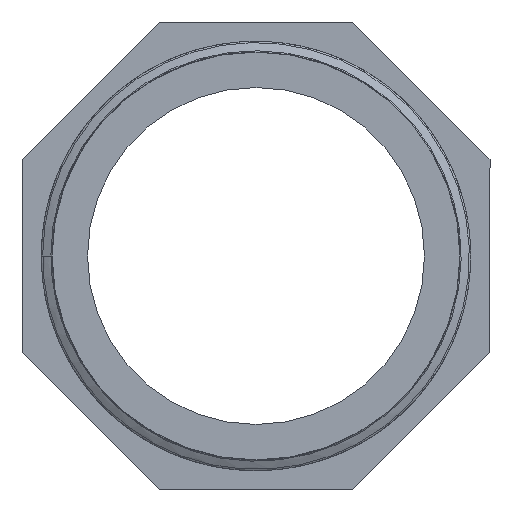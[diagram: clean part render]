
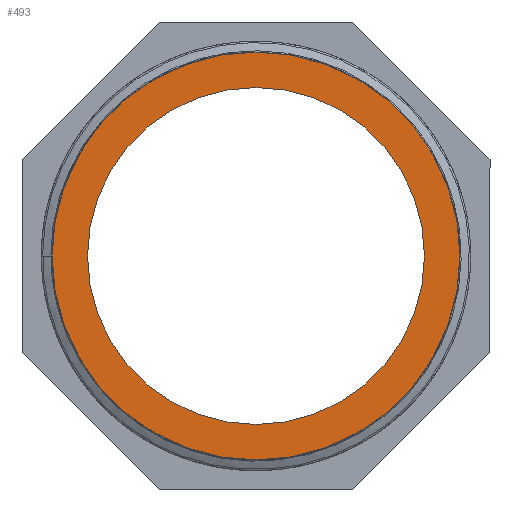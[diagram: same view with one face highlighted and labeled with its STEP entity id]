
A CAD part, front view. The second image highlights one B-rep face of the part: STEP entity #493.
In plain terms, the highlighted planar face has unit normal (0, -1, 0).
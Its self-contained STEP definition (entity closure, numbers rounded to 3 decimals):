
#108=PLANE('',#535);
#120=FACE_BOUND('',#197,.T.);
#155=FACE_OUTER_BOUND('',#196,.T.);
#196=EDGE_LOOP('',(#443));
#197=EDGE_LOOP('',(#444));
#231=CIRCLE('',#521,28.328);
#233=CIRCLE('',#534,23.4);
#258=VERTEX_POINT('',#3503);
#278=VERTEX_POINT('',#5165);
#312=EDGE_CURVE('',#258,#258,#231,.T.);
#338=EDGE_CURVE('',#278,#278,#233,.T.);
#443=ORIENTED_EDGE('',*,*,#312,.T.);
#444=ORIENTED_EDGE('',*,*,#338,.T.);
#493=ADVANCED_FACE('',(#155,#120),#108,.T.);
#521=AXIS2_PLACEMENT_3D('',#5111,#590,#591);
#534=AXIS2_PLACEMENT_3D('',#5166,#640,#641);
#535=AXIS2_PLACEMENT_3D('',#5167,#642,#643);
#590=DIRECTION('center_axis',(0.,-1.,0.));
#591=DIRECTION('ref_axis',(-1.,0.,0.));
#640=DIRECTION('center_axis',(0.,1.,0.));
#641=DIRECTION('ref_axis',(1.,0.,0.));
#642=DIRECTION('center_axis',(0.,-1.,0.));
#643=DIRECTION('ref_axis',(0.,0.,-1.));
#3503=CARTESIAN_POINT('',(-28.328,-40.1,0.));
#5111=CARTESIAN_POINT('Origin',(0.,-40.1,0.));
#5165=CARTESIAN_POINT('',(-23.4,-40.1,0.));
#5166=CARTESIAN_POINT('Origin',(0.,-40.1,0.));
#5167=CARTESIAN_POINT('Origin',(-29.5,-40.1,0.));
